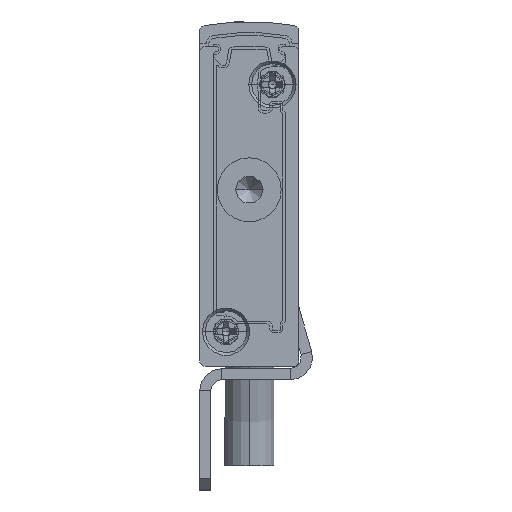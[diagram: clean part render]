
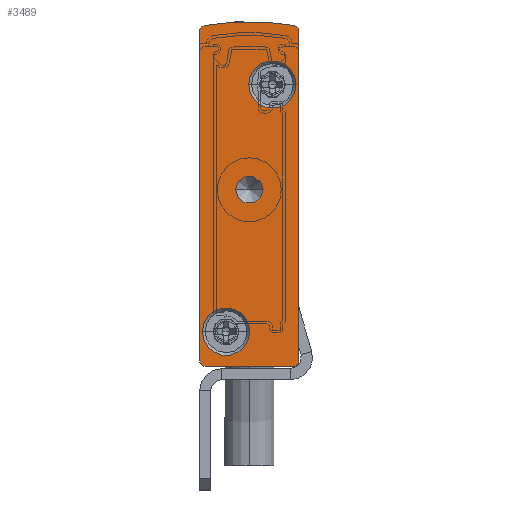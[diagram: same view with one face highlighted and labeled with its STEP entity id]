
A CAD part, front view. The second image highlights one B-rep face of the part: STEP entity #3489.
In plain terms, the highlighted planar face has unit normal (0, -1, 0).
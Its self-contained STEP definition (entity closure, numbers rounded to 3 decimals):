
#434 = ORIENTED_EDGE ( 'NONE', *, *, #478, .F. ) ;
#478 = EDGE_CURVE ( 'NONE', #19946, #11466, #1230, .T. ) ;
#537 = AXIS2_PLACEMENT_3D ( 'NONE', #2421, #16285, #5400 ) ;
#616 = ORIENTED_EDGE ( 'NONE', *, *, #15112, .F. ) ;
#704 = VERTEX_POINT ( 'NONE', #5928 ) ;
#1104 = DIRECTION ( 'NONE',  ( 0., 1., 0. ) ) ;
#1230 = LINE ( 'NONE', #24963, #15224 ) ;
#1495 = CARTESIAN_POINT ( 'NONE',  ( -9., -2.5, 0.5 ) ) ;
#1558 = AXIS2_PLACEMENT_3D ( 'NONE', #20075, #10131, #14368 ) ;
#1716 = FACE_BOUND ( 'NONE', #23495, .T. ) ;
#1776 = VERTEX_POINT ( 'NONE', #18951 ) ;
#1945 = CARTESIAN_POINT ( 'NONE',  ( 0., -2.5, 30.402 ) ) ;
#2024 = FACE_OUTER_BOUND ( 'NONE', #20140, .T. ) ;
#2199 = ORIENTED_EDGE ( 'NONE', *, *, #16179, .F. ) ;
#2421 = CARTESIAN_POINT ( 'NONE',  ( -2.4, -2.5, 25.55 ) ) ;
#2649 = AXIS2_PLACEMENT_3D ( 'NONE', #3944, #3861, #17753 ) ;
#3082 = CARTESIAN_POINT ( 'NONE',  ( 0., -2.5, 0.5 ) ) ;
#3088 = DIRECTION ( 'NONE',  ( 0., 1., 0. ) ) ;
#3148 = CARTESIAN_POINT ( 'NONE',  ( -9., -2.5, 30.402 ) ) ;
#3158 = EDGE_CURVE ( 'NONE', #25041, #25700, #15847, .T. ) ;
#3489 = ADVANCED_FACE ( 'NONE', ( #7611, #11359, #2024, #1716 ), #11018, .F. ) ;
#3778 = ORIENTED_EDGE ( 'NONE', *, *, #13819, .F. ) ;
#3861 = DIRECTION ( 'NONE',  ( 0., 1., 0. ) ) ;
#3944 = CARTESIAN_POINT ( 'NONE',  ( -0.5, -2.5, 0.5 ) ) ;
#4658 = DIRECTION ( 'NONE',  ( 0., -1., 0. ) ) ;
#4810 = AXIS2_PLACEMENT_3D ( 'NONE', #15438, #25483, #25566 ) ;
#5056 = VERTEX_POINT ( 'NONE', #3082 ) ;
#5081 = CIRCLE ( 'NONE', #20983, 1.25 ) ;
#5172 = VERTEX_POINT ( 'NONE', #15225 ) ;
#5400 = DIRECTION ( 'NONE',  ( 1., 0., 0. ) ) ;
#5761 = CARTESIAN_POINT ( 'NONE',  ( -8.5, -2.5, 30.402 ) ) ;
#5791 = ORIENTED_EDGE ( 'NONE', *, *, #19728, .F. ) ;
#5858 = ORIENTED_EDGE ( 'NONE', *, *, #21242, .T. ) ;
#5928 = CARTESIAN_POINT ( 'NONE',  ( -0.408, -2.5, 30.893 ) ) ;
#6169 = AXIS2_PLACEMENT_3D ( 'NONE', #8328, #6517, #20499 ) ;
#6223 = DIRECTION ( 'NONE',  ( 0., 1., 0. ) ) ;
#6391 = EDGE_CURVE ( 'NONE', #11466, #11873, #25296, .T. ) ;
#6517 = DIRECTION ( 'NONE',  ( 0., -1., 0. ) ) ;
#6834 = VERTEX_POINT ( 'NONE', #13588 ) ;
#7250 = ORIENTED_EDGE ( 'NONE', *, *, #6391, .F. ) ;
#7269 = AXIS2_PLACEMENT_3D ( 'NONE', #24718, #18531, #16858 ) ;
#7348 = VECTOR ( 'NONE', #13006, 1000. ) ;
#7611 = FACE_BOUND ( 'NONE', #10450, .T. ) ;
#7821 = ORIENTED_EDGE ( 'NONE', *, *, #15256, .F. ) ;
#8284 = EDGE_CURVE ( 'NONE', #23443, #5172, #10262, .T. ) ;
#8328 = CARTESIAN_POINT ( 'NONE',  ( -2.4, -2.5, 25.55 ) ) ;
#9099 = DIRECTION ( 'NONE',  ( -1., 0., 0. ) ) ;
#9379 = DIRECTION ( 'NONE',  ( -1., 0., 0. ) ) ;
#9431 = CARTESIAN_POINT ( 'NONE',  ( -0.5, -2.5, 0. ) ) ;
#9564 = ORIENTED_EDGE ( 'NONE', *, *, #21656, .F. ) ;
#9956 = AXIS2_PLACEMENT_3D ( 'NONE', #5761, #11962, #15839 ) ;
#10131 = DIRECTION ( 'NONE',  ( 0., 1., 0. ) ) ;
#10262 = CIRCLE ( 'NONE', #6169, 2.15 ) ;
#10450 = EDGE_LOOP ( 'NONE', ( #5791, #20758 ) ) ;
#10715 = VECTOR ( 'NONE', #22710, 1000. ) ;
#10787 = LINE ( 'NONE', #22763, #7348 ) ;
#10873 = CARTESIAN_POINT ( 'NONE',  ( -8.5, -2.5, 0. ) ) ;
#11018 = PLANE ( 'NONE',  #25141 ) ;
#11195 = CARTESIAN_POINT ( 'NONE',  ( -8.5, -2.5, 30.402 ) ) ;
#11359 = FACE_BOUND ( 'NONE', #21296, .T. ) ;
#11466 = VERTEX_POINT ( 'NONE', #3148 ) ;
#11474 = DIRECTION ( 'NONE',  ( 0., 1., 0. ) ) ;
#11492 = AXIS2_PLACEMENT_3D ( 'NONE', #23386, #11474, #9379 ) ;
#11873 = VERTEX_POINT ( 'NONE', #24425 ) ;
#11962 = DIRECTION ( 'NONE',  ( 0., 1., 0. ) ) ;
#12099 = CIRCLE ( 'NONE', #537, 2.15 ) ;
#12408 = DIRECTION ( 'NONE',  ( 1., 0., 0. ) ) ;
#12787 = CARTESIAN_POINT ( 'NONE',  ( -3.25, -2.5, 16. ) ) ;
#13006 = DIRECTION ( 'NONE',  ( 0., 0., -1. ) ) ;
#13543 = CARTESIAN_POINT ( 'NONE',  ( -5.75, -2.5, 16. ) ) ;
#13588 = CARTESIAN_POINT ( 'NONE',  ( -4.45, -2.5, 3.15 ) ) ;
#13704 = EDGE_CURVE ( 'NONE', #704, #13842, #21336, .T. ) ;
#13819 = EDGE_CURVE ( 'NONE', #5056, #14258, #15733, .T. ) ;
#13842 = VERTEX_POINT ( 'NONE', #1945 ) ;
#14258 = VERTEX_POINT ( 'NONE', #9431 ) ;
#14368 = DIRECTION ( 'NONE',  ( -1., 0., 0. ) ) ;
#14753 = DIRECTION ( 'NONE',  ( 0., 0., 1. ) ) ;
#15108 = ORIENTED_EDGE ( 'NONE', *, *, #13704, .F. ) ;
#15112 = EDGE_CURVE ( 'NONE', #13842, #5056, #10787, .T. ) ;
#15224 = VECTOR ( 'NONE', #14753, 1000. ) ;
#15225 = CARTESIAN_POINT ( 'NONE',  ( -0.25, -2.5, 25.55 ) ) ;
#15256 = EDGE_CURVE ( 'NONE', #25443, #19946, #20119, .T. ) ;
#15281 = ORIENTED_EDGE ( 'NONE', *, *, #25422, .F. ) ;
#15438 = CARTESIAN_POINT ( 'NONE',  ( -0.5, -2.5, 30.402 ) ) ;
#15733 = CIRCLE ( 'NONE', #2649, 0.5 ) ;
#15839 = DIRECTION ( 'NONE',  ( -1., 0., 0. ) ) ;
#15847 = CIRCLE ( 'NONE', #1558, 1.25 ) ;
#16179 = EDGE_CURVE ( 'NONE', #11873, #704, #22593, .T. ) ;
#16285 = DIRECTION ( 'NONE',  ( 0., -1., 0. ) ) ;
#16858 = DIRECTION ( 'NONE',  ( 1., 0., 0. ) ) ;
#17050 = DIRECTION ( 'NONE',  ( -1., 0., 0. ) ) ;
#17649 = EDGE_CURVE ( 'NONE', #6834, #1776, #23238, .T. ) ;
#17753 = DIRECTION ( 'NONE',  ( -1., 0., 0. ) ) ;
#17766 = CIRCLE ( 'NONE', #7269, 2.15 ) ;
#18116 = CARTESIAN_POINT ( 'NONE',  ( -4.5, -2.5, 7.592 ) ) ;
#18531 = DIRECTION ( 'NONE',  ( 0., -1., 0. ) ) ;
#18951 = CARTESIAN_POINT ( 'NONE',  ( -8.75, -2.5, 3.15 ) ) ;
#19728 = EDGE_CURVE ( 'NONE', #5172, #23443, #12099, .T. ) ;
#19946 = VERTEX_POINT ( 'NONE', #1495 ) ;
#20075 = CARTESIAN_POINT ( 'NONE',  ( -4.5, -2.5, 16. ) ) ;
#20119 = CIRCLE ( 'NONE', #11492, 0.5 ) ;
#20140 = EDGE_LOOP ( 'NONE', ( #7250, #434, #7821, #15281, #3778, #616, #15108, #2199 ) ) ;
#20194 = DIRECTION ( 'NONE',  ( -1., 0., 0. ) ) ;
#20338 = CARTESIAN_POINT ( 'NONE',  ( -4.55, -2.5, 25.55 ) ) ;
#20499 = DIRECTION ( 'NONE',  ( 1., 0., 0. ) ) ;
#20526 = AXIS2_PLACEMENT_3D ( 'NONE', #24320, #4658, #12408 ) ;
#20758 = ORIENTED_EDGE ( 'NONE', *, *, #8284, .F. ) ;
#20983 = AXIS2_PLACEMENT_3D ( 'NONE', #21139, #3088, #17050 ) ;
#21139 = CARTESIAN_POINT ( 'NONE',  ( -4.5, -2.5, 16. ) ) ;
#21242 = EDGE_CURVE ( 'NONE', #25700, #25041, #5081, .T. ) ;
#21296 = EDGE_LOOP ( 'NONE', ( #22726, #9564 ) ) ;
#21336 = CIRCLE ( 'NONE', #4810, 0.5 ) ;
#21656 = EDGE_CURVE ( 'NONE', #1776, #6834, #17766, .T. ) ;
#22537 = CARTESIAN_POINT ( 'NONE',  ( -8.5, -2.5, 0. ) ) ;
#22593 = CIRCLE ( 'NONE', #24517, 23.658 ) ;
#22710 = DIRECTION ( 'NONE',  ( -1., 0., 0. ) ) ;
#22726 = ORIENTED_EDGE ( 'NONE', *, *, #17649, .F. ) ;
#22763 = CARTESIAN_POINT ( 'NONE',  ( 0., -2.5, 30.402 ) ) ;
#23238 = CIRCLE ( 'NONE', #20526, 2.15 ) ;
#23386 = CARTESIAN_POINT ( 'NONE',  ( -8.5, -2.5, 0.5 ) ) ;
#23443 = VERTEX_POINT ( 'NONE', #20338 ) ;
#23495 = EDGE_LOOP ( 'NONE', ( #5858, #23938 ) ) ;
#23938 = ORIENTED_EDGE ( 'NONE', *, *, #3158, .T. ) ;
#24320 = CARTESIAN_POINT ( 'NONE',  ( -6.6, -2.5, 3.15 ) ) ;
#24425 = CARTESIAN_POINT ( 'NONE',  ( -8.592, -2.5, 30.893 ) ) ;
#24517 = AXIS2_PLACEMENT_3D ( 'NONE', #18116, #6223, #20194 ) ;
#24718 = CARTESIAN_POINT ( 'NONE',  ( -6.6, -2.5, 3.15 ) ) ;
#24963 = CARTESIAN_POINT ( 'NONE',  ( -9., -2.5, 30.402 ) ) ;
#25037 = LINE ( 'NONE', #10873, #10715 ) ;
#25041 = VERTEX_POINT ( 'NONE', #12787 ) ;
#25141 = AXIS2_PLACEMENT_3D ( 'NONE', #11195, #1104, #9099 ) ;
#25296 = CIRCLE ( 'NONE', #9956, 0.5 ) ;
#25422 = EDGE_CURVE ( 'NONE', #14258, #25443, #25037, .T. ) ;
#25443 = VERTEX_POINT ( 'NONE', #22537 ) ;
#25483 = DIRECTION ( 'NONE',  ( 0., 1., 0. ) ) ;
#25566 = DIRECTION ( 'NONE',  ( -1., 0., 0. ) ) ;
#25700 = VERTEX_POINT ( 'NONE', #13543 ) ;
